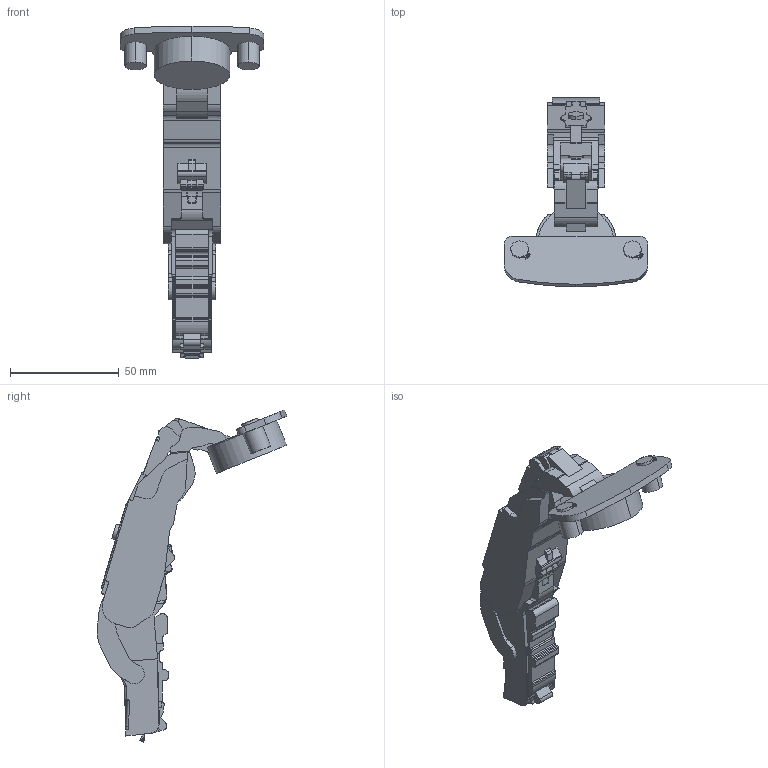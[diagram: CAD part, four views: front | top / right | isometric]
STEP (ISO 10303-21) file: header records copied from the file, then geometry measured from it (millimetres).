
FILE_DESCRIPTION (( 'STEP AP203' ), '1' );
FILE_NAME ('C81A807T0FAB DTC 3D OPEN.STEP', '2024-07-30T02:03:56', ( '微软用户' ), ( '微软中国' ), 'SwSTEP 2.0', 'SolidWorks 2021', '' );
FILE_SCHEMA (( 'CONFIG_CONTROL_DESIGN' ));
Length unit declared in the file: millimetre
Products named in the file (1): C81A807T0FAB DTC 3D OPEN
Bounding box: 66.2 x 87.36 x 152.94 mm (x, y, z)
Volume: 94986.5 mm3; surface area: 22757.4 mm2
Topology: 1 solids, 10 shells, 936 faces, 2546 edges, 1617 vertices
Faces by surface type: plane 364, cylinder 364, torus 130, bspline 72, sphere 6
Entity records: 32653 total; most frequent: CARTESIAN_POINT 9237, ORIENTED_EDGE 5068, DIRECTION 4822, EDGE_CURVE 2534, AXIS2_PLACEMENT_3D 1745, VERTEX_POINT 1617, VECTOR 1332, LINE 1332
